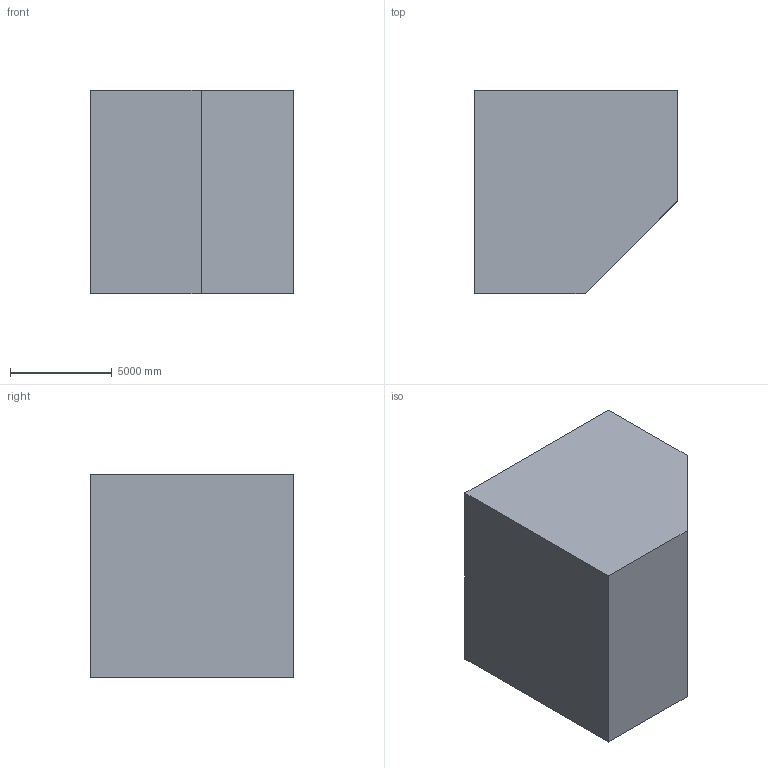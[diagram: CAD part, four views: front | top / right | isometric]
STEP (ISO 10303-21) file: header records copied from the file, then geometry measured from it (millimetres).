
FILE_DESCRIPTION (( 'STEP AP203' ), '1' );
FILE_NAME ('1018.STEP', '2022-08-18T12:26:29', ( 'user' ), ( '' ), 'SwSTEP 2.0', 'SolidWorks 2021', '' );
FILE_SCHEMA (( 'CONFIG_CONTROL_DESIGN' ));
Length unit declared in the file: centimetre
Products named in the file (1): 1018
Bounding box: 10000 x 10000 x 10000 mm (x, y, z)
Volume: 849634949108.6 mm3; surface area: 605342532.1 mm2
Topology: 1 solids, 1 shells, 14 faces, 33 edges, 22 vertices
Faces by surface type: plane 14
Entity records: 474 total; most frequent: CARTESIAN_POINT 70, ORIENTED_EDGE 66, DIRECTION 63, LINE 33, EDGE_CURVE 33, VECTOR 33, VERTEX_POINT 22, EDGE_LOOP 15
